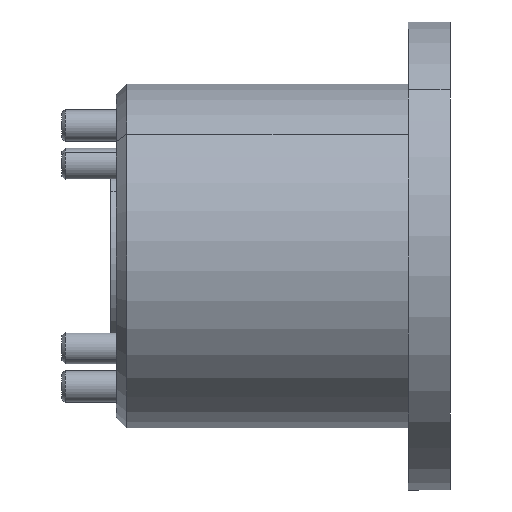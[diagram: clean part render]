
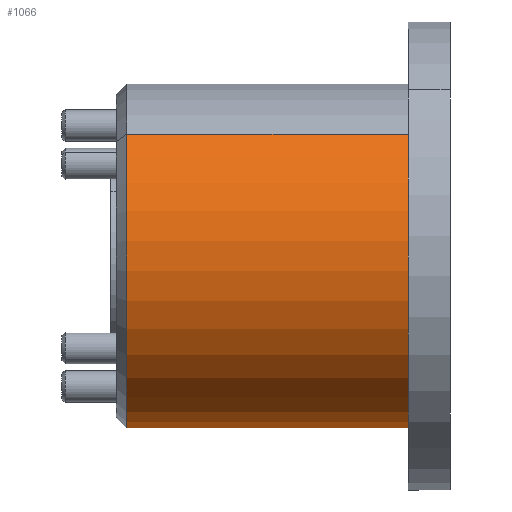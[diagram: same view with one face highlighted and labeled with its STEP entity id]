
A CAD part, front view. The second image highlights one B-rep face of the part: STEP entity #1066.
In plain terms, the highlighted cylindrical face has radius 33 mm (diameter 66 mm), a partial arc.
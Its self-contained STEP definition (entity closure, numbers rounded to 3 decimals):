
#31 = VERTEX_POINT ( 'NONE', #4754 ) ;
#33 = DIRECTION ( 'NONE',  ( 0., -0.707, 0.707 ) ) ;
#222 = VERTEX_POINT ( 'NONE', #2392 ) ;
#307 = AXIS2_PLACEMENT_3D ( 'NONE', #1353, #5714, #2203 ) ;
#354 = VECTOR ( 'NONE', #6175, 1000. ) ;
#963 = VECTOR ( 'NONE', #5540, 1000. ) ;
#1008 = CARTESIAN_POINT ( 'NONE',  ( 106.5, 32., 5.5 ) ) ;
#1066 = ADVANCED_FACE ( 'NONE', ( #1486 ), #4877, .T. ) ;
#1319 = CARTESIAN_POINT ( 'NONE',  ( 98.5, 8.665, 28.835 ) ) ;
#1353 = CARTESIAN_POINT ( 'NONE',  ( 44.5, 32., 5.5 ) ) ;
#1486 = FACE_OUTER_BOUND ( 'NONE', #5184, .T. ) ;
#1921 = ORIENTED_EDGE ( 'NONE', *, *, #5893, .F. ) ;
#1969 = DIRECTION ( 'NONE',  ( 0., -0.707, 0.707 ) ) ;
#2163 = ORIENTED_EDGE ( 'NONE', *, *, #2712, .T. ) ;
#2203 = DIRECTION ( 'NONE',  ( 0., -0.707, 0.707 ) ) ;
#2392 = CARTESIAN_POINT ( 'NONE',  ( 44.5, 55.335, -17.835 ) ) ;
#2712 = EDGE_CURVE ( 'NONE', #3412, #5884, #3555, .T. ) ;
#2786 = AXIS2_PLACEMENT_3D ( 'NONE', #5869, #6372, #1969 ) ;
#3203 = CIRCLE ( 'NONE', #2786, 33. ) ;
#3412 = VERTEX_POINT ( 'NONE', #1319 ) ;
#3462 = EDGE_CURVE ( 'NONE', #31, #222, #6276, .T. ) ;
#3555 = LINE ( 'NONE', #4421, #963 ) ;
#3591 = ORIENTED_EDGE ( 'NONE', *, *, #3462, .F. ) ;
#3736 = CARTESIAN_POINT ( 'NONE',  ( 106.5, 55.335, -17.835 ) ) ;
#3802 = CARTESIAN_POINT ( 'NONE',  ( 44.5, 8.665, 28.835 ) ) ;
#4421 = CARTESIAN_POINT ( 'NONE',  ( 106.5, 8.665, 28.835 ) ) ;
#4455 = DIRECTION ( 'NONE',  ( -1., 0., 0. ) ) ;
#4754 = CARTESIAN_POINT ( 'NONE',  ( 98.5, 55.335, -17.835 ) ) ;
#4877 = CYLINDRICAL_SURFACE ( 'NONE', #5052, 33. ) ;
#5052 = AXIS2_PLACEMENT_3D ( 'NONE', #1008, #4455, #33 ) ;
#5184 = EDGE_LOOP ( 'NONE', ( #3591, #5465, #2163, #1921 ) ) ;
#5465 = ORIENTED_EDGE ( 'NONE', *, *, #6125, .T. ) ;
#5540 = DIRECTION ( 'NONE',  ( -1., 0., 0. ) ) ;
#5714 = DIRECTION ( 'NONE',  ( -1., 0., 0. ) ) ;
#5869 = CARTESIAN_POINT ( 'NONE',  ( 98.5, 32., 5.5 ) ) ;
#5884 = VERTEX_POINT ( 'NONE', #3802 ) ;
#5885 = CIRCLE ( 'NONE', #307, 33. ) ;
#5893 = EDGE_CURVE ( 'NONE', #222, #5884, #5885, .T. ) ;
#6125 = EDGE_CURVE ( 'NONE', #31, #3412, #3203, .T. ) ;
#6175 = DIRECTION ( 'NONE',  ( -1., 0., 0. ) ) ;
#6276 = LINE ( 'NONE', #3736, #354 ) ;
#6372 = DIRECTION ( 'NONE',  ( -1., 0., 0. ) ) ;
